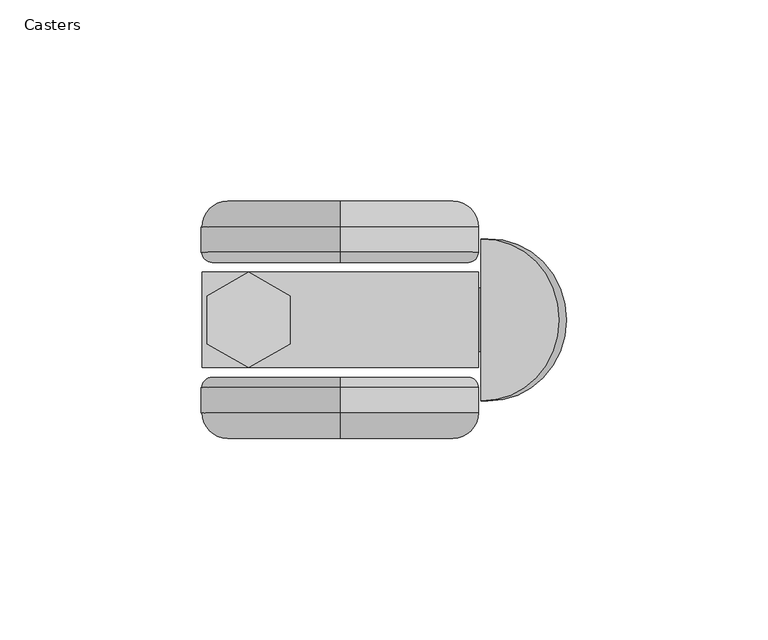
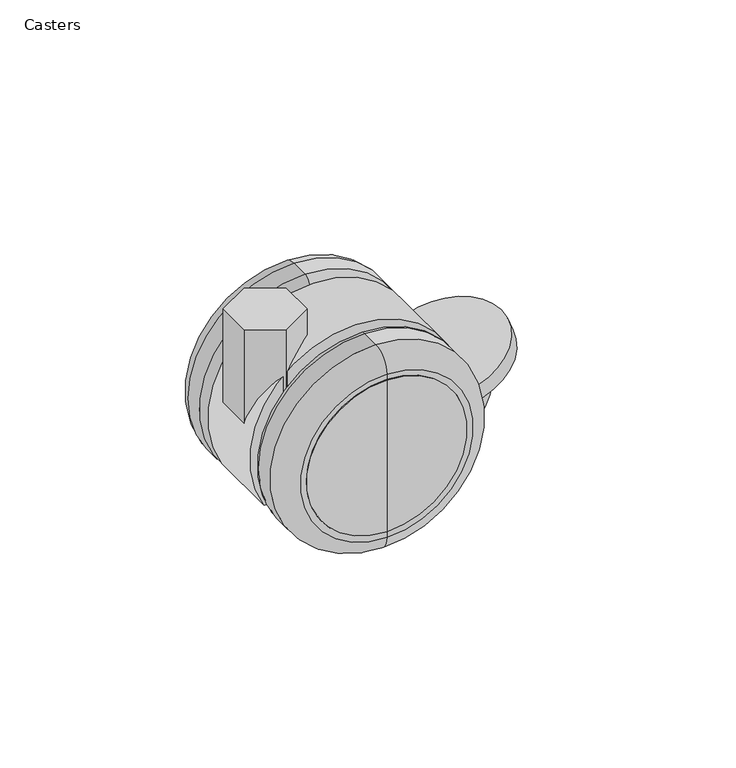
"""IFC4 building model written with IfcOpenShell, lengths in millimetres: furniture geometry, SmithSystem_AM_Table_Education_Elemental_Activity_Caster : Casters."""

from ifc_helpers import new_model, si_unit, point, frame, frame_2d, origin, place, context, project, spatial, polyline, circle_curve, ellipse_curve, trimmed, segment, composite_curve, outline, extrude, source, transform, mapped, element, save
from ifc_brep_helpers import plane_surface, cylinder_surface, revolved_surface, advanced_brep


def casters_8ac8777f(model_context):
    return source(origin(), model_context, "Body", "SolidModel", [
        advanced_brep(
        [(22.7469158, -29.4512671, 60.6180432), (22.7469158, -29.4512671, 8.3705283), (22.7469158, -29.4512671, 34.4942858), (22.7469158, -14.2762892, 34.4942858), (22.7469158, -14.2762892, 8.3705283), (22.7469158, -14.2762892, 60.6180432)],
        [
            (0, 1, circle_curve(frame((22.7469158, -29.4512671, 34.4942858), z_axis=(0.0, -1.0, 0.0), x_axis=(0.0, 0.0, -1.0)), 26.1237575)),
            (1, 2),
            (2, 0),
            (1, 0, circle_curve(frame((22.7469158, -29.4512671, 34.4942858), z_axis=(0.0, -1.0, 0.0), x_axis=(0.0, 0.0, -1.0)), 26.1237575)),
            (3, 4),
            (4, 5, circle_curve(frame((22.7469158, -14.2762892, 34.4942858), z_axis=(0.0, 1.0, 0.0), x_axis=(0.0, 0.0, -1.0)), 26.1237575)),
            (5, 3),
            (5, 4, circle_curve(frame((22.7469158, -14.2762892, 34.4942858), z_axis=(0.0, 1.0, 0.0), x_axis=(0.0, 0.0, -1.0)), 26.1237575)),
            (4, 1),
            (0, 5),
        ],
        [
            plane_surface(frame((22.7469158, -29.4512671, 34.4942858), z_axis=(0.0, -1.0, 0.0), x_axis=(0.0, 0.0, -1.0))),
            plane_surface(frame((22.7469158, -14.2762892, 34.4942858), z_axis=(0.0, 1.0, 0.0), x_axis=(0.0, 0.0, -1.0))),
            cylinder_surface(frame((22.7469158, -29.4512671, 34.4942858), z_axis=(0.0, 1.0, 0.0), x_axis=(0.0, 0.0, -1.0)), 26.1237575),
        ],
        [
            (0, [[1, 2, 3]]),
            (0, [[4, -3, -2]]),
            (1, [[5, 6, 7]]),
            (1, [[-7, 8, -5]]),
            (2, [[-6, 9, -1, 10]]),
            (2, [[-8, -10, -4, -9]]),
        ],
    ),
        advanced_brep(
        [(22.7469158, 14.2762892, 60.6180432), (22.7469158, 14.2762892, 8.3705283), (22.7469158, 14.2762892, 34.4942858), (22.7469158, 29.4512671, 34.4942858), (22.7469158, 29.4512671, 8.3705283), (22.7469158, 29.4512671, 60.6180432)],
        [
            (0, 1, circle_curve(frame((22.7469158, 14.2762892, 34.4942858), z_axis=(0.0, -1.0, 0.0), x_axis=(0.0, 0.0, -1.0)), 26.1237575)),
            (1, 2),
            (2, 0),
            (1, 0, circle_curve(frame((22.7469158, 14.2762892, 34.4942858), z_axis=(0.0, -1.0, 0.0), x_axis=(0.0, 0.0, -1.0)), 26.1237575)),
            (3, 4),
            (4, 5, circle_curve(frame((22.7469158, 29.4512671, 34.4942858), z_axis=(0.0, 1.0, 0.0), x_axis=(0.0, 0.0, -1.0)), 26.1237575)),
            (5, 3),
            (5, 4, circle_curve(frame((22.7469158, 29.4512671, 34.4942858), z_axis=(0.0, 1.0, 0.0), x_axis=(0.0, 0.0, -1.0)), 26.1237575)),
            (4, 1),
            (0, 5),
        ],
        [
            plane_surface(frame((22.7469158, 14.2762892, 34.4942858), z_axis=(0.0, -1.0, 0.0), x_axis=(0.0, 0.0, -1.0))),
            plane_surface(frame((22.7469158, 29.4512671, 34.4942858), z_axis=(0.0, 1.0, 0.0), x_axis=(0.0, 0.0, -1.0))),
            cylinder_surface(frame((22.7469158, -29.4512671, 34.4942858), z_axis=(0.0, 1.0, 0.0), x_axis=(0.0, 0.0, -1.0)), 26.1237575),
        ],
        [
            (0, [[1, 2, 3]]),
            (0, [[4, -3, -2]]),
            (1, [[5, 6, 7]]),
            (1, [[-7, 8, -5]]),
            (2, [[-6, 9, -1, 10]]),
            (2, [[-8, -10, -4, -9]]),
        ],
    ),
        extrude(outline(polyline([(10.2716684, 5.9301869), (10.2721586, -5.9301869), (0.0009736, -11.8608108), (-10.27056, -5.9310233), (-10.2711108, 5.9293064), (6.74e-05, 11.8599472), (10.2716684, 5.9301869)])), frame((0.0, 0.0, 34.5154144), z_axis=(0.0, 0.0, 1.0), x_axis=(1.0, 0.0, 0.0)), (0.0, 0.0, 1.0), 40.7243426),
        extrude(outline(composite_curve([segment(trimmed(circle_curve(frame_2d((34.5024615, 22.7479107)), 34.5095906), [point((17.258349, 52.6402581))], [point((17.258349, -7.1444366))], False, "CARTESIAN"), True, "CONTINUOUS"), segment(polyline([(17.258349, -7.1444366), (17.258349, 52.6402581)]), True, "CONTINUOUS")], self_intersect=False)), frame((0.0, -11.8608108, 0.0), z_axis=(0.0, 1.0, 0.0), x_axis=(0.0, 0.0, 1.0)), (0.0, 0.0, 1.0), 23.7207579),
        extrude(outline(composite_curve([segment(polyline([(20.0903763, -20.7225689), (-20.0903762, -20.7225689)]), True, "CONTINUOUS"), segment(trimmed(circle_curve(frame_2d((0.0, -20.1000196)), 20.1000196), [point((-20.0903762, -20.7225689))], [point((20.0903763, -20.7225689))], False, "CARTESIAN"), True, "CONTINUOUS")], self_intersect=False)), frame((78.8659414, 7.36e-05, 43.1304578), z_axis=(-0.3416096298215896, 0.0, 0.9398419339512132), x_axis=(0.0, -1.0, 0.0)), (0.0, 0.0, 1.0), 5.1309173),
        extrude(outline(composite_curve([segment(polyline([(25.5698623, 43.1421933), (25.5698623, 30.4421933)]), True, "CONTINUOUS"), segment(trimmed(circle_curve(frame_2d((33.2726957, 49.5086334)), 20.5636275), [point((25.5698623, 30.4421933))], [point((34.5482376, 70.0326624))], False, "CARTESIAN"), True, "CONTINUOUS"), segment(trimmed(circle_curve(frame_2d((34.7161098, 72.7337994)), 2.7063485), [point((34.5482376, 70.0326624))], [point((37.3518014, 72.1194283))], True, "CARTESIAN"), True, "CONTINUOUS"), segment(trimmed(circle_curve(frame_2d((42.0756307, 71.018319)), 4.8504644), [point((37.3518014, 72.1194283))], [point((42.0445064, 75.8686836))], False, "CARTESIAN"), True, "CONTINUOUS"), segment(polyline([(42.0445064, 75.8686836), (36.0718444, 59.4589294)]), True, "CONTINUOUS"), segment(trimmed(circle_curve(frame_2d((33.1410013, 49.8072387)), 10.0868714), [point((36.0718444, 59.4589294))], [point((25.5698623, 43.1421933))], True, "CARTESIAN"), True, "CONTINUOUS")], self_intersect=False)), frame((0.0, -7.8925125, 0.0), z_axis=(0.0, 1.0, 0.0), x_axis=(0.0, 0.0, 1.0)), (0.0, 0.0, 1.0), 15.7887393),
        advanced_brep(
        [(22.7469158, -29.4512671, 62.6385715), (22.7469158, -29.4512671, 6.35), (22.7469158, -29.4512671, 8.3705283), (22.7469158, -29.4512671, 60.6180432), (22.7469158, -23.1012671, 68.9885715), (22.7469158, -23.1012671, 0.0), (22.7469158, -16.7875927, 68.9885715), (22.7469158, -16.7875927, 0.0), (22.7469158, -14.2762892, 66.4772681), (22.7469158, -14.2762892, 2.5113035), (22.7469158, -14.2762892, 60.6180432), (22.7469158, -14.2762892, 8.3705283)],
        [
            (0, 1, circle_curve(frame((22.7469158, -29.4512671, 34.4942858), z_axis=(0.0, -1.0, 0.0), x_axis=(0.0, 0.0, -1.0)), 28.1442858)),
            (1, 2),
            (2, 3, circle_curve(frame((22.7469158, -29.4512671, 34.4942858), z_axis=(0.0, 1.0, 0.0), x_axis=(0.0, 0.0, -1.0)), 26.1237575)),
            (3, 0),
            (1, 0, circle_curve(frame((22.7469158, -29.4512671, 34.4942858), z_axis=(0.0, -1.0, 0.0), x_axis=(0.0, 0.0, -1.0)), 28.1442858)),
            (3, 2, circle_curve(frame((22.7469158, -29.4512671, 34.4942858), z_axis=(0.0, 1.0, 0.0), x_axis=(0.0, 0.0, -1.0)), 26.1237575)),
            (4, 5, circle_curve(frame((22.7469158, -23.1012671, 34.4942858), z_axis=(0.0, -1.0, 0.0), x_axis=(0.0, 0.0, -1.0)), 34.4942858)),
            (5, 1, circle_curve(frame((22.7469158, -23.1012671, 6.35), z_axis=(-1.0, 0.0, 0.0), x_axis=(0.0, 1.0, 0.0)), 6.35)),
            (0, 4, circle_curve(frame((22.7469158, -23.1012671, 62.6385715), z_axis=(-1.0, 0.0, 0.0), x_axis=(0.0, 1.0, 0.0)), 6.35)),
            (5, 4, circle_curve(frame((22.7469158, -23.1012671, 34.4942858), z_axis=(0.0, -1.0, 0.0), x_axis=(0.0, 0.0, -1.0)), 34.4942858)),
            (6, 7, circle_curve(frame((22.7469158, -16.7875927, 34.4942858), z_axis=(0.0, -1.0, 0.0), x_axis=(0.0, 0.0, -1.0)), 34.4942858)),
            (7, 5),
            (4, 6),
            (7, 6, circle_curve(frame((22.7469158, -16.7875927, 34.4942858), z_axis=(0.0, -1.0, 0.0), x_axis=(0.0, 0.0, -1.0)), 34.4942858)),
            (8, 9, circle_curve(frame((22.7469158, -14.2762892, 34.4942858), z_axis=(0.0, -1.0, 0.0), x_axis=(0.0, 0.0, -1.0)), 31.9829823)),
            (9, 7, circle_curve(frame((22.7469158, -16.7875927, 2.5113035), z_axis=(-1.0, 0.0, 0.0), x_axis=(0.0, 1.0, 0.0)), 2.5113035)),
            (6, 8, circle_curve(frame((22.7469158, -16.7875927, 66.4772681), z_axis=(-1.0, 0.0, 0.0), x_axis=(0.0, 1.0, 0.0)), 2.5113035)),
            (9, 8, circle_curve(frame((22.7469158, -14.2762892, 34.4942858), z_axis=(0.0, -1.0, 0.0), x_axis=(0.0, 0.0, -1.0)), 31.9829823)),
            (10, 11, circle_curve(frame((22.7469158, -14.2762892, 34.4942858), z_axis=(0.0, -1.0, 0.0), x_axis=(0.0, 0.0, -1.0)), 26.1237575)),
            (11, 9),
            (8, 10),
            (11, 10, circle_curve(frame((22.7469158, -14.2762892, 34.4942858), z_axis=(0.0, -1.0, 0.0), x_axis=(0.0, 0.0, -1.0)), 26.1237575)),
            (2, 11),
            (10, 3),
        ],
        [
            plane_surface(frame((22.7469158, -29.4512671, 34.4942858), z_axis=(0.0, -1.0, 0.0), x_axis=(0.0, 0.0, -1.0))),
            revolved_surface(trimmed(ellipse_curve(frame((22.7469158, -23.1012671, 6.35), z_axis=(1.0, 0.0, 0.0), x_axis=(0.0, 1.0, 0.0)), 6.35, 6.35), [point((22.7469158, -29.4512671, 6.35))], [point((22.7469158, -23.1012671, 0.0))], True, "CARTESIAN"), (22.7469158, -29.4512671, 34.4942858), (0.0, 1.0, 0.0)),
            cylinder_surface(frame((22.7469158, -29.4512671, 34.4942858), z_axis=(0.0, 1.0, 0.0), x_axis=(0.0, 0.0, -1.0)), 34.4942858),
            revolved_surface(trimmed(ellipse_curve(frame((22.7469158, -16.7875927, 2.5113035), z_axis=(1.0, 0.0, 0.0), x_axis=(0.0, 1.0, 0.0)), 2.5113035, 2.5113035), [point((22.7469158, -16.7875927, 0.0))], [point((22.7469158, -14.2762892, 2.5113035))], True, "CARTESIAN"), (22.7469158, -29.4512671, 34.4942858), (0.0, 1.0, 0.0)),
            plane_surface(frame((22.7469158, -14.2762892, 34.4942858), z_axis=(0.0, 1.0, 0.0), x_axis=(0.0, 0.0, -1.0))),
            revolved_surface(polyline([(22.7469158, -14.2762892, 8.3705283), (22.7469158, -29.4512671, 8.3705283)]), (22.7469158, -29.4512671, 34.4942858), (0.0, 1.0, 0.0)),
        ],
        [
            (0, [[1, 2, 3, 4]]),
            (0, [[5, -4, 6, -2]]),
            (1, [[7, 8, -1, 9]]),
            (1, [[10, -9, -5, -8]]),
            (2, [[11, 12, -7, 13]]),
            (2, [[14, -13, -10, -12]]),
            (3, [[15, 16, -11, 17]]),
            (3, [[18, -17, -14, -16]]),
            (4, [[19, 20, -15, 21]]),
            (4, [[22, -21, -18, -20]]),
            (5, [[-3, 23, -19, 24]]),
            (5, [[-6, -24, -22, -23]]),
        ],
    ),
        advanced_brep(
        [(22.7469158, 14.2762892, 66.4772681), (22.7469158, 14.2762892, 2.5113035), (22.7469158, 14.2762892, 8.3705283), (22.7469158, 14.2762892, 60.6180432), (22.7469158, 16.7875927, 68.9885715), (22.7469158, 16.7875927, 0.0), (22.7469158, 23.1012671, 68.9885715), (22.7469158, 23.1012671, 0.0), (22.7469158, 29.4512671, 62.6385715), (22.7469158, 29.4512671, 6.35), (22.7469158, 29.4512671, 60.6180432), (22.7469158, 29.4512671, 8.3705283)],
        [
            (0, 1, circle_curve(frame((22.7469158, 14.2762892, 34.4942858), z_axis=(0.0, -1.0, 0.0), x_axis=(0.0, 0.0, -1.0)), 31.9829823)),
            (1, 2),
            (2, 3, circle_curve(frame((22.7469158, 14.2762892, 34.4942858), z_axis=(0.0, 1.0, 0.0), x_axis=(0.0, 0.0, -1.0)), 26.1237575)),
            (3, 0),
            (1, 0, circle_curve(frame((22.7469158, 14.2762892, 34.4942858), z_axis=(0.0, -1.0, 0.0), x_axis=(0.0, 0.0, -1.0)), 31.9829823)),
            (3, 2, circle_curve(frame((22.7469158, 14.2762892, 34.4942858), z_axis=(0.0, 1.0, 0.0), x_axis=(0.0, 0.0, -1.0)), 26.1237575)),
            (4, 5, circle_curve(frame((22.7469158, 16.7875927, 34.4942858), z_axis=(0.0, -1.0, 0.0), x_axis=(0.0, 0.0, -1.0)), 34.4942858)),
            (5, 1, circle_curve(frame((22.7469158, 16.7875927, 2.5113035), z_axis=(-1.0, 0.0, 0.0), x_axis=(0.0, 1.0, 0.0)), 2.5113035)),
            (0, 4, circle_curve(frame((22.7469158, 16.7875927, 66.4772681), z_axis=(-1.0, 0.0, 0.0), x_axis=(0.0, 1.0, 0.0)), 2.5113035)),
            (5, 4, circle_curve(frame((22.7469158, 16.7875927, 34.4942858), z_axis=(0.0, -1.0, 0.0), x_axis=(0.0, 0.0, -1.0)), 34.4942858)),
            (6, 7, circle_curve(frame((22.7469158, 23.1012671, 34.4942858), z_axis=(0.0, -1.0, 0.0), x_axis=(0.0, 0.0, -1.0)), 34.4942858)),
            (7, 5),
            (4, 6),
            (7, 6, circle_curve(frame((22.7469158, 23.1012671, 34.4942858), z_axis=(0.0, -1.0, 0.0), x_axis=(0.0, 0.0, -1.0)), 34.4942858)),
            (8, 9, circle_curve(frame((22.7469158, 29.4512671, 34.4942858), z_axis=(0.0, -1.0, 0.0), x_axis=(0.0, 0.0, -1.0)), 28.1442858)),
            (9, 7, circle_curve(frame((22.7469158, 23.1012671, 6.35), z_axis=(-1.0, 0.0, 0.0), x_axis=(0.0, 1.0, 0.0)), 6.35)),
            (6, 8, circle_curve(frame((22.7469158, 23.1012671, 62.6385715), z_axis=(-1.0, 0.0, 0.0), x_axis=(0.0, 1.0, 0.0)), 6.35)),
            (9, 8, circle_curve(frame((22.7469158, 29.4512671, 34.4942858), z_axis=(0.0, -1.0, 0.0), x_axis=(0.0, 0.0, -1.0)), 28.1442858)),
            (10, 11, circle_curve(frame((22.7469158, 29.4512671, 34.4942858), z_axis=(0.0, -1.0, 0.0), x_axis=(0.0, 0.0, -1.0)), 26.1237575)),
            (11, 9),
            (8, 10),
            (11, 10, circle_curve(frame((22.7469158, 29.4512671, 34.4942858), z_axis=(0.0, -1.0, 0.0), x_axis=(0.0, 0.0, -1.0)), 26.1237575)),
            (2, 11),
            (10, 3),
        ],
        [
            plane_surface(frame((22.7469158, 14.2762892, 34.4942858), z_axis=(0.0, -1.0, 0.0), x_axis=(0.0, 0.0, -1.0))),
            revolved_surface(trimmed(ellipse_curve(frame((22.7469158, 16.7875927, 2.5113035), z_axis=(1.0, 0.0, 0.0), x_axis=(0.0, 1.0, 0.0)), 2.5113035, 2.5113035), [point((22.7469158, 14.2762892, 2.5113035))], [point((22.7469158, 16.7875927, 0.0))], True, "CARTESIAN"), (22.7469158, -29.4512671, 34.4942858), (0.0, 1.0, 0.0)),
            cylinder_surface(frame((22.7469158, -29.4512671, 34.4942858), z_axis=(0.0, 1.0, 0.0), x_axis=(0.0, 0.0, -1.0)), 34.4942858),
            revolved_surface(trimmed(ellipse_curve(frame((22.7469158, 23.1012671, 6.35), z_axis=(1.0, 0.0, 0.0), x_axis=(0.0, 1.0, 0.0)), 6.35, 6.35), [point((22.7469158, 23.1012671, 0.0))], [point((22.7469158, 29.4512671, 6.35))], True, "CARTESIAN"), (22.7469158, -29.4512671, 34.4942858), (0.0, 1.0, 0.0)),
            plane_surface(frame((22.7469158, 29.4512671, 34.4942858), z_axis=(0.0, 1.0, 0.0), x_axis=(0.0, 0.0, -1.0))),
            revolved_surface(polyline([(22.7469158, 29.4512671, 8.3705283), (22.7469158, 14.276289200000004, 8.3705283)]), (22.7469158, -29.4512671, 34.4942858), (0.0, 1.0, 0.0)),
        ],
        [
            (0, [[1, 2, 3, 4]]),
            (0, [[5, -4, 6, -2]]),
            (1, [[7, 8, -1, 9]]),
            (1, [[10, -9, -5, -8]]),
            (2, [[11, 12, -7, 13]]),
            (2, [[14, -13, -10, -12]]),
            (3, [[15, 16, -11, 17]]),
            (3, [[18, -17, -14, -16]]),
            (4, [[19, 20, -15, 21]]),
            (4, [[22, -21, -18, -20]]),
            (5, [[-3, 23, -19, 24]]),
            (5, [[-6, -24, -22, -23]]),
        ],
    ),
    ])


if __name__ == "__main__":
    model = new_model("IFC4")
    model_context = context("Model", 3, world=origin())
    ifc_project = project(units=[si_unit("LENGTHUNIT", "METRE", prefix="MILLI")], contexts=[model_context])
    site = spatial("IfcSite", under=ifc_project)
    building = spatial("IfcBuilding", under=site)
    placement = place(None, origin())
    casters_shape = casters_8ac8777f(model_context)
    element("IfcFurniture", 1, ObjectType="SmithSystem_AM_Table_Education_Elemental_Activity_Caster : Casters", at=placement, inside=building, context=model_context, shape_type="MappedRepresentation", body=[
        mapped(casters_shape, transform((0.0, 0.0, 0.0), x_axis=(1.0, 0.0, 0.0), y_axis=(0.0, 1.0, 0.0), z_axis=(0.0, 0.0, 1.0))),
    ])
    save(model, "model.ifc")
